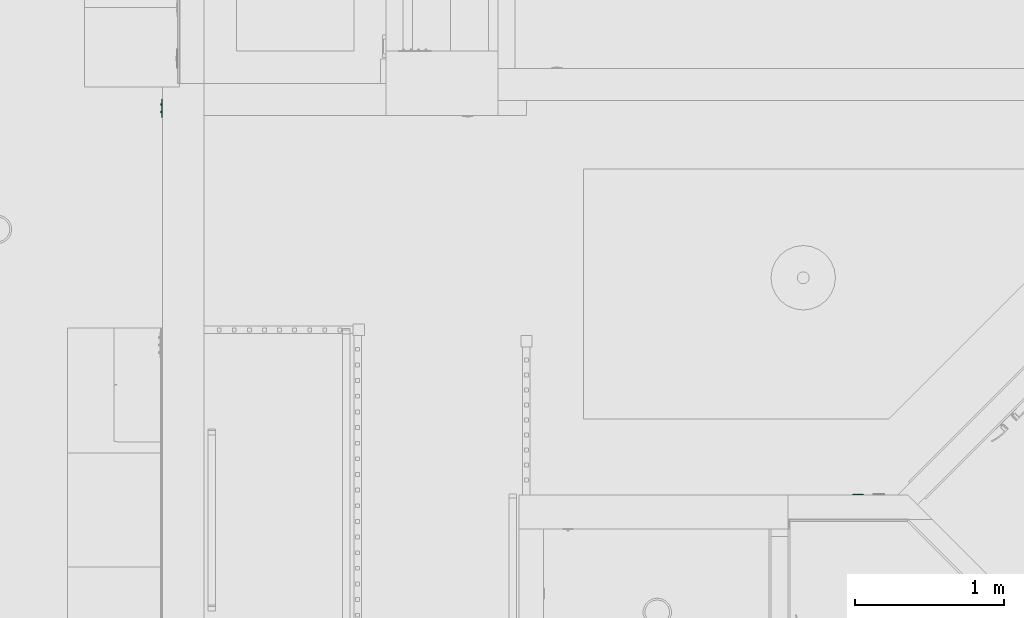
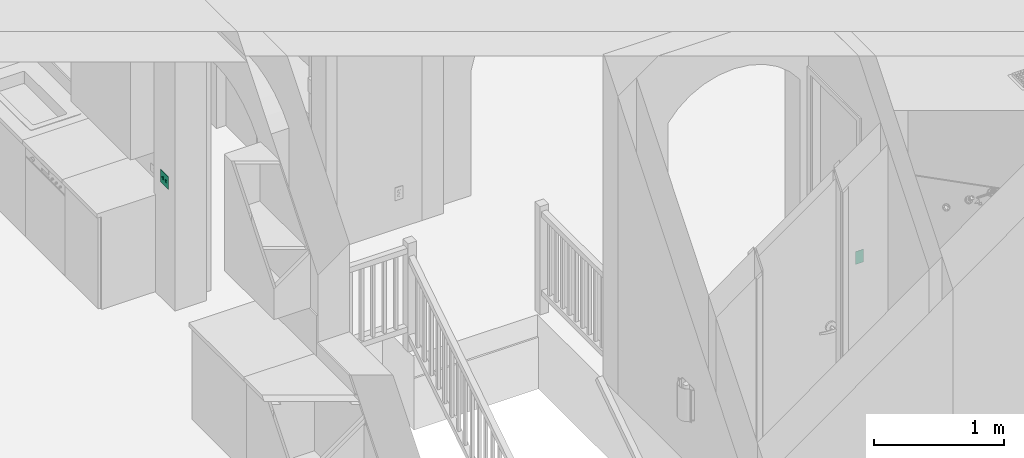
# One storey, part 14 of 103: 2 flow controllers.
"""IFC2X3 building model written with IfcOpenShell, lengths in inches."""

from ifc_helpers import new_model, entity, si_unit, converted_unit, derived_unit, money_unit, direction, frame, origin_with_axes, place, context, subcontext, project, spatial, faceted_brep, source, transform, mapped, type_object, element, save


model = new_model("IFC2X3")

# Units and contexts
model_context = context("Model", 3, precision=0.00039370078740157, world=origin_with_axes(), true_north=direction((0.0, 1.0)))
plan_context = context("Plan", 3, precision=0.00039370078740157, world=origin_with_axes(), true_north=direction((0.0, 1.0)))
body_context = subcontext(model_context, "Body", "Model", "MODEL_VIEW")
ifc_project = project(units=[converted_unit("LENGTHUNIT", "INCH", entity("IfcPositiveLengthMeasure", 0.0254), si_unit("LENGTHUNIT", "METRE"), dimensions=[1, 0, 0, 0, 0, 0, 0]), converted_unit("AREAUNIT", "SQUARE_FOOT", entity("IfcPositiveLengthMeasure", 0.09290304), si_unit("AREAUNIT", "SQUARE_METRE"), dimensions=[2, 0, 0, 0, 0, 0, 0]), si_unit("PLANEANGLEUNIT", "RADIAN"), si_unit("SOLIDANGLEUNIT", "STERADIAN"), money_unit("USD"), converted_unit("TIMEUNIT", "Year", entity("IfcTimeMeasure", 31557600.0), si_unit("TIMEUNIT", "SECOND"), dimensions=[0, 0, 1, 0, 0, 0, 0]), si_unit("MASSUNIT", "GRAM", prefix="KILO"), si_unit("THERMODYNAMICTEMPERATUREUNIT", "DEGREE_CELSIUS"), si_unit("LUMINOUSINTENSITYUNIT", "LUMEN"), si_unit("ENERGYUNIT", "JOULE", prefix="MEGA"), derived_unit("SPECIFICHEATCAPACITYUNIT", [(si_unit("ENERGYUNIT", "JOULE"), 1), (si_unit("MASSUNIT", "GRAM", prefix="KILO"), -1), (si_unit("THERMODYNAMICTEMPERATUREUNIT", "KELVIN"), -1)])], contexts=[model_context, plan_context])

# Site, building, storey
site_placement = place(None, origin_with_axes())
site = spatial("IfcSite", under=ifc_project, at=site_placement, Name="Site", CompositionType="ELEMENT")
building_placement = place(site_placement, origin_with_axes())
building = spatial("IfcBuilding", under=site, at=building_placement, Name="Building", CompositionType="ELEMENT")
storey_placement = place(building_placement, frame((0.0, 0.0, 127.9999999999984), z_axis=(0.0, 0.0, 1.0), x_axis=(1.0, 0.0, 0.0)))
storey = spatial("IfcBuildingStorey", under=building, at=storey_placement, Name="Second Floor", CompositionType="ELEMENT", Elevation=128.0)

# Flow controllers
switching_device_type_1 = type_object("IfcSwitchingDeviceType", Name="Outlet 1 US", PredefinedType="NOTDEFINED")
shared_shape_1 = source(origin_with_axes(), body_context, "Body", "Brep", [
    faceted_brep([(0.39370078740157, -0.03444881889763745, -1.18110236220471), (0.5436477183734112, -0.03444881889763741, -0.7086614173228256), (0.5436477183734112, -0.2165354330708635, -0.7086614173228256), (0.39370078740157, -0.2165354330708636, -1.18110236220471), (-0.3937007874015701, -0.03444881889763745, -1.181102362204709), (-0.543647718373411, -0.03444881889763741, -0.7086614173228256), (-0.39370078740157, -0.03444881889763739, -0.2362204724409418), (0.3937007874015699, -0.03444881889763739, -0.2362204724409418), (-0.196850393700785, -0.03444881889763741, -0.7086614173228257), (-0.196850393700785, -0.0344488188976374, -0.4724409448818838), (-0.275590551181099, -0.0344488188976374, -0.4724409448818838), (-0.275590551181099, -0.03444881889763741, -0.7086614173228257), (0.196850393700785, -0.03444881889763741, -0.7086614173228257), (0.275590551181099, -0.03444881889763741, -0.7086614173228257), (0.275590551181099, -0.0344488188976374, -0.4724409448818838), (0.196850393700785, -0.0344488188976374, -0.4724409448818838), (-0.078740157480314, -0.03444881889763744, -1.102362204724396), (0.078740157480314, -0.03444881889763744, -1.102362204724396), (0.078740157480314, -0.03444881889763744, -1.023622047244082), (0.06819097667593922, -0.03444881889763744, -0.9842519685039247), (0.03937007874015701, -0.03444881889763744, -0.9554310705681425), (0.0, -0.03444881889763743, -0.9448818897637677), (-0.03937007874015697, -0.03444881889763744, -0.9554310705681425), (-0.06819097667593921, -0.03444881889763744, -0.9842519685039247), (-0.078740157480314, -0.03444881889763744, -1.023622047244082), (0.3937007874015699, -0.2165354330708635, -0.2362204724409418), (-0.39370078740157, -0.2165354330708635, -0.2362204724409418), (-0.543647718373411, -0.2165354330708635, -0.7086614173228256), (-0.3937007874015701, -0.2165354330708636, -1.181102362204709), (-0.196850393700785, -0.2165354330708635, -0.7086614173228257), (-0.275590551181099, -0.2165354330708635, -0.7086614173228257), (-0.275590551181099, -0.2165354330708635, -0.4724409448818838), (-0.196850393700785, -0.2165354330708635, -0.4724409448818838), (0.196850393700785, -0.2165354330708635, -0.7086614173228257), (0.196850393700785, -0.2165354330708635, -0.4724409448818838), (0.275590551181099, -0.2165354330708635, -0.4724409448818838), (0.275590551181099, -0.2165354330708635, -0.7086614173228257), (-0.078740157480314, -0.2165354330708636, -1.102362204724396), (-0.078740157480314, -0.2165354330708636, -1.023622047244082), (-0.06819097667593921, -0.2165354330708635, -0.9842519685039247), (-0.03937007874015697, -0.2165354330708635, -0.9554310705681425), (0.0, -0.2165354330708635, -0.9448818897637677), (0.03937007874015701, -0.2165354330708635, -0.9554310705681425), (0.06819097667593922, -0.2165354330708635, -0.9842519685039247), (0.078740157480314, -0.2165354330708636, -1.023622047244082), (0.078740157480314, -0.2165354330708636, -1.102362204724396)], [[[0, 1, 2, 3]], [[0, 4, 5, 6, 7, 1], [8, 9, 10, 11], [12, 13, 14, 15], [16, 17, 18, 19, 20, 21, 22, 23, 24]], [[1, 7, 25, 2]], [[3, 2, 25, 26, 27, 28], [29, 30, 31, 32], [33, 34, 35, 36], [37, 38, 39, 40, 41, 42, 43, 44, 45]], [[4, 0, 3, 28]], [[5, 4, 28, 27]], [[6, 5, 27, 26]], [[7, 6, 26, 25]], [[9, 8, 29, 32]], [[10, 9, 32, 31]], [[11, 10, 31, 30]], [[8, 11, 30, 29]], [[13, 12, 33, 36]], [[14, 13, 36, 35]], [[15, 14, 35, 34]], [[12, 15, 34, 33]], [[17, 16, 37, 45]], [[18, 17, 45, 44]], [[19, 18, 44, 43]], [[20, 19, 43, 42]], [[21, 20, 42, 41]], [[22, 21, 41, 40]], [[23, 22, 40, 39]], [[24, 23, 39, 38]], [[16, 24, 38, 37]]]),
    faceted_brep([(0.39370078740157, -0.03444881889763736, 0.2362204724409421), (0.5436477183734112, -0.03444881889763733, 0.7086614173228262), (0.5436477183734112, -0.2165354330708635, 0.7086614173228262), (0.39370078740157, -0.2165354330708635, 0.2362204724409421), (-0.3937007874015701, -0.03444881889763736, 0.2362204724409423), (-0.543647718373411, -0.03444881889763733, 0.7086614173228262), (-0.39370078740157, -0.0344488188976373, 1.18110236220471), (0.3937007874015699, -0.0344488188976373, 1.18110236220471), (-0.196850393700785, -0.03444881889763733, 0.7086614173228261), (-0.196850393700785, -0.03444881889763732, 0.944881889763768), (-0.275590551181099, -0.03444881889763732, 0.944881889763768), (-0.275590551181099, -0.03444881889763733, 0.7086614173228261), (0.196850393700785, -0.03444881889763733, 0.7086614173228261), (0.275590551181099, -0.03444881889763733, 0.7086614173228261), (0.275590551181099, -0.03444881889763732, 0.944881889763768), (0.196850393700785, -0.03444881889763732, 0.944881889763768), (-0.078740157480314, -0.03444881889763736, 0.3149606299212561), (0.078740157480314, -0.03444881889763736, 0.3149606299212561), (0.078740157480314, -0.03444881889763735, 0.3937007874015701), (0.06819097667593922, -0.03444881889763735, 0.4330708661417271), (0.03937007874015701, -0.03444881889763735, 0.4618917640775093), (0.0, -0.03444881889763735, 0.472440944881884), (-0.03937007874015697, -0.03444881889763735, 0.4618917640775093), (-0.06819097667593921, -0.03444881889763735, 0.4330708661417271), (-0.078740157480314, -0.03444881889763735, 0.3937007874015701), (0.3937007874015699, -0.2165354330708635, 1.18110236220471), (-0.39370078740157, -0.2165354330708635, 1.18110236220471), (-0.543647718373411, -0.2165354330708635, 0.7086614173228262), (-0.3937007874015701, -0.2165354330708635, 0.2362204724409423), (-0.196850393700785, -0.2165354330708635, 0.7086614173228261), (-0.275590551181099, -0.2165354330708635, 0.7086614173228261), (-0.275590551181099, -0.2165354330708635, 0.944881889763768), (-0.196850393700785, -0.2165354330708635, 0.944881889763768), (0.196850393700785, -0.2165354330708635, 0.7086614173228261), (0.196850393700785, -0.2165354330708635, 0.944881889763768), (0.275590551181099, -0.2165354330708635, 0.944881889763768), (0.275590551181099, -0.2165354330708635, 0.7086614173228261), (-0.078740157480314, -0.2165354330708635, 0.3149606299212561), (-0.078740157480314, -0.2165354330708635, 0.3937007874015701), (-0.06819097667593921, -0.2165354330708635, 0.4330708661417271), (-0.03937007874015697, -0.2165354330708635, 0.4618917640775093), (0.0, -0.2165354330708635, 0.472440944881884), (0.03937007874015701, -0.2165354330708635, 0.4618917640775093), (0.06819097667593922, -0.2165354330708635, 0.4330708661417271), (0.078740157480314, -0.2165354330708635, 0.3937007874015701), (0.078740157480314, -0.2165354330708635, 0.3149606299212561)], [[[0, 1, 2, 3]], [[0, 4, 5, 6, 7, 1], [8, 9, 10, 11], [12, 13, 14, 15], [16, 17, 18, 19, 20, 21, 22, 23, 24]], [[1, 7, 25, 2]], [[3, 2, 25, 26, 27, 28], [29, 30, 31, 32], [33, 34, 35, 36], [37, 38, 39, 40, 41, 42, 43, 44, 45]], [[4, 0, 3, 28]], [[5, 4, 28, 27]], [[6, 5, 27, 26]], [[7, 6, 26, 25]], [[9, 8, 29, 32]], [[10, 9, 32, 31]], [[11, 10, 31, 30]], [[8, 11, 30, 29]], [[13, 12, 33, 36]], [[14, 13, 36, 35]], [[15, 14, 35, 34]], [[12, 15, 34, 33]], [[17, 16, 37, 45]], [[18, 17, 45, 44]], [[19, 18, 44, 43]], [[20, 19, 43, 42]], [[21, 20, 42, 41]], [[22, 21, 41, 40]], [[23, 22, 40, 39]], [[24, 23, 39, 38]], [[16, 24, 38, 37]]]),
    faceted_brep([(-1.343503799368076, -0.1377952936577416, -2.327755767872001), (1.343503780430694, -0.1377952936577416, -2.327755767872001), (1.343503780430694, -0.1377952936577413, 2.327755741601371), (-1.343503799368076, -0.1377952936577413, 2.327755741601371), (0.39370078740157, -0.1377952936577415, -1.18110236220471), (-0.3937007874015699, -0.1377952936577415, -1.181102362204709), (-0.5436477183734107, -0.1377952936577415, -0.7086614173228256), (-0.39370078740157, -0.1377952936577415, -0.2362204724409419), (0.3937007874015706, -0.1377952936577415, -0.2362204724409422), (0.5436477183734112, -0.1377952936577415, -0.7086614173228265), (-0.39370078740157, -0.1377952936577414, 1.18110236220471), (0.3937007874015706, -0.1377952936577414, 1.18110236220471), (0.5436477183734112, -0.1377952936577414, 0.7086614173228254), (0.39370078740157, -0.1377952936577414, 0.236220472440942), (-0.3937007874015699, -0.1377952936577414, 0.2362204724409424), (-0.5436477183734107, -0.1377952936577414, 0.7086614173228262), (-1.352419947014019, -0.1366214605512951, -2.336671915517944), (1.352419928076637, -0.1366214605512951, -2.336671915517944), (1.352419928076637, -0.1366214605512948, 2.336671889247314), (-1.352419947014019, -0.1366214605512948, 2.336671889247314), (0.39370078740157, -0.03444881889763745, -1.18110236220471), (-0.3937007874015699, -0.03444881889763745, -1.181102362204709), (-0.5436477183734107, -0.03444881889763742, -0.7086614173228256), (-0.39370078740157, -0.03444881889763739, -0.2362204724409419), (0.3937007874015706, -0.03444881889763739, -0.2362204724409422), (0.5436477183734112, -0.03444881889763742, -0.7086614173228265), (-0.39370078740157, -0.0344488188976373, 1.18110236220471), (0.3937007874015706, -0.0344488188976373, 1.18110236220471), (0.5436477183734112, -0.03444881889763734, 0.7086614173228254), (0.39370078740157, -0.03444881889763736, 0.236220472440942), (-0.3937007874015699, -0.03444881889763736, 0.2362204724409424), (-0.5436477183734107, -0.03444881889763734, 0.7086614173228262), (-1.36786294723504, -0.1277054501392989, -2.352114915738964), (1.367862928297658, -0.1277054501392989, -2.352114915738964), (1.367862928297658, -0.1277054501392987, 2.352114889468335), (-1.36786294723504, -0.1277054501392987, 2.352114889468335), (-1.376778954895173, -0.1122624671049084, -2.361030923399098), (1.376778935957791, -0.1122624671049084, -2.361030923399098), (1.376778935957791, -0.1122624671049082, 2.361030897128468), (-1.376778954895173, -0.1122624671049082, 2.361030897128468), (-1.377952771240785, -0.1033464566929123, -2.362204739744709), (1.377952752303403, -0.1033464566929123, -2.362204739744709), (1.377952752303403, -0.103346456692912, 2.36220471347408), (-1.377952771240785, -0.103346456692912, 2.36220471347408), (-1.377952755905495, 0.0, -2.36220472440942), (1.377952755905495, 0.0, -2.36220472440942), (1.377952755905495, 0.0, 2.36220472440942), (-1.377952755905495, 0.0, 2.36220472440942)], [[[0, 1, 2, 3], [4, 5, 6, 7, 8, 9], [10, 11, 12, 13, 14, 15]], [[1, 0, 16, 17]], [[2, 1, 17, 18]], [[3, 2, 18, 19]], [[0, 3, 19, 16]], [[4, 20, 21, 5]], [[5, 21, 22, 6]], [[6, 22, 23, 7]], [[7, 23, 24, 8]], [[8, 24, 25, 9]], [[9, 25, 20, 4]], [[11, 10, 26, 27]], [[12, 11, 27, 28]], [[13, 12, 28, 29]], [[14, 13, 29, 30]], [[15, 14, 30, 31]], [[10, 15, 31, 26]], [[17, 16, 32, 33]], [[18, 17, 33, 34]], [[19, 18, 34, 35]], [[16, 19, 35, 32]], [[22, 21, 20, 25, 24, 23]], [[28, 27, 26, 31, 30, 29]], [[33, 32, 36, 37]], [[34, 33, 37, 38]], [[35, 34, 38, 39]], [[32, 35, 39, 36]], [[37, 36, 40, 41]], [[38, 37, 41, 42]], [[39, 38, 42, 43]], [[36, 39, 43, 40]], [[41, 40, 44, 45]], [[42, 41, 45, 46]], [[43, 42, 46, 47]], [[40, 43, 47, 44]], [[46, 45, 44, 47]]]),
])
flow_controller_1_placement = place(storey_placement, frame((333.9998441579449, 88.49999999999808, 13.99999999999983), z_axis=(0.0, 0.0, 1.0), x_axis=(-1.0, 0.0, 0.0)))
element("IfcFlowController", 1, at=flow_controller_1_placement, inside=storey, type_object=switching_device_type_1, Name="FU - 029", context=body_context, shape_type="MappedRepresentation", body=[
    mapped(shared_shape_1, transform((0.0, 0.0, 0.0))),
])
switching_device_type_2 = type_object("IfcSwitchingDeviceType", Name="Switch US", PredefinedType="NOTDEFINED")
shared_shape_2 = source(origin_with_axes(), body_context, "Body", "Brep", [
    faceted_brep([(1.18110236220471, 0.0, -0.5905511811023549), (0.7874015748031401, 0.0, -0.5905511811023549), (0.7874015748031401, 0.0, 0.5905511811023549), (1.18110236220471, 0.0, 0.5905511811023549), (1.18110236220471, -0.1033464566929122, -0.5905511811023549), (0.7874015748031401, -0.1033464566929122, -0.5905511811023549), (0.7874015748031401, -0.1033464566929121, 0.157480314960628), (0.7874015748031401, -0.4970472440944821, 0.1574803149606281), (0.7874015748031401, -0.4970472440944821, 0.472440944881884), (0.7874015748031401, -0.1033464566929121, 0.472440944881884), (0.7874015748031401, -0.1033464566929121, 0.5905511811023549), (1.18110236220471, -0.103346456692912, 0.5905511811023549), (1.18110236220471, -0.1033464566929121, 0.472440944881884), (1.18110236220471, -0.4970472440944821, 0.472440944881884), (1.18110236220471, -0.4970472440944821, 0.1574803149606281), (1.18110236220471, -0.1033464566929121, 0.157480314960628)], [[[0, 1, 2, 3]], [[4, 5, 1, 0]], [[1, 5, 6, 7, 8, 9, 10, 2]], [[3, 2, 10, 11]], [[0, 3, 11, 12, 13, 14, 15, 4]], [[15, 6, 5, 4]], [[14, 7, 6, 15]], [[13, 8, 7, 14]], [[12, 9, 8, 13]], [[11, 10, 9, 12]]]),
    faceted_brep([(1.259842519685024, 0.0, -0.669291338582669), (1.259842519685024, -0.1771653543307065, -0.669291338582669), (0.7086614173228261, -0.1771653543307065, -0.669291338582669), (0.7086614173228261, 0.0, -0.669291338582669), (1.259842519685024, 0.0, 0.669291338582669), (1.259842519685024, -0.1771653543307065, 0.669291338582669), (0.7086614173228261, -0.1771653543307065, 0.669291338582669), (1.18110236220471, -0.1771653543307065, -0.5905511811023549), (0.78740157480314, -0.1771653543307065, -0.5905511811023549), (0.78740157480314, -0.1771653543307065, 0.5905511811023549), (1.18110236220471, -0.1771653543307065, 0.5905511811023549), (0.7086614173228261, 0.0, 0.669291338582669), (1.18110236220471, 0.0, -0.5905511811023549), (1.18110236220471, 0.0, 0.5905511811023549), (0.78740157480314, 0.0, 0.5905511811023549), (0.78740157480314, 0.0, -0.5905511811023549)], [[[0, 1, 2, 3]], [[4, 5, 1, 0]], [[1, 5, 6, 2], [7, 8, 9, 10]], [[3, 2, 6, 11]], [[0, 3, 11, 4], [12, 13, 14, 15]], [[11, 6, 5, 4]], [[15, 8, 7, 12]], [[14, 9, 8, 15]], [[13, 10, 9, 14]], [[12, 7, 10, 13]]]),
    faceted_brep([(0.0, -0.103346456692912, 2.362204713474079), (2.362204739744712, -0.103346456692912, 2.362204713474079), (2.36220472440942, 0.0, 2.36220472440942), (0.0, 0.0, 2.36220472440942), (0.0, -0.1122624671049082, 2.361030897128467), (2.361030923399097, -0.1122624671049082, 2.361030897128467), (2.362204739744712, -0.1033464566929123, -2.36220473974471), (2.36220472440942, 0.0, -2.36220472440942), (0.0, 0.0, -2.36220472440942), (0.7086614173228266, 0.0, -0.669291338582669), (1.259842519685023, 0.0, -0.669291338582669), (1.259842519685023, 0.0, 0.669291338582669), (0.7086614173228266, 0.0, 0.669291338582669), (0.0, -0.1033464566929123, -2.36220473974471), (0.0, -0.1122624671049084, -2.361030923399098), (0.0, -0.1277054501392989, -2.352114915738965), (0.0, -0.1366214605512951, -2.336671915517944), (0.0, -0.1377952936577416, -2.327755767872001), (0.0, -0.1377952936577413, 2.32775574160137), (0.0, -0.1366214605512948, 2.336671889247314), (0.0, -0.1277054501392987, 2.352114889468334), (2.352114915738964, -0.1277054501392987, 2.352114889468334), (2.361030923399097, -0.1122624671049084, -2.361030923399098), (0.7086614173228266, -0.1377952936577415, -0.669291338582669), (1.259842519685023, -0.1377952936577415, -0.669291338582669), (1.259842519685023, -0.1377952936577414, 0.669291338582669), (0.7086614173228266, -0.1377952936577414, 0.669291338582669), (2.352114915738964, -0.1277054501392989, -2.352114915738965), (2.336671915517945, -0.1366214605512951, -2.336671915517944), (2.327755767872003, -0.1377952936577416, -2.327755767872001), (2.327755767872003, -0.1377952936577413, 2.32775574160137), (2.336671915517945, -0.1366214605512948, 2.336671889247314)], [[[0, 1, 2, 3]], [[4, 5, 1, 0]], [[6, 7, 2, 1]], [[3, 2, 7, 8], [9, 10, 11, 12]], [[8, 13, 14, 15, 16, 17, 18, 19, 20, 4, 0, 3]], [[20, 21, 5, 4]], [[22, 6, 1, 5]], [[8, 7, 6, 13]], [[10, 9, 23, 24]], [[11, 10, 24, 25]], [[12, 11, 25, 26]], [[9, 12, 26, 23]], [[13, 6, 22, 14]], [[14, 22, 27, 15]], [[15, 27, 28, 16]], [[16, 28, 29, 17]], [[17, 29, 30, 18], [25, 24, 23, 26]], [[18, 30, 31, 19]], [[19, 31, 21, 20]], [[27, 22, 5, 21]], [[28, 27, 21, 31]], [[29, 28, 31, 30]]]),
    faceted_brep([(-0.78740157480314, 0.0, -0.5905511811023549), (-1.18110236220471, 0.0, -0.5905511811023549), (-1.18110236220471, 0.0, 0.5905511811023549), (-0.78740157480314, 0.0, 0.5905511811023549), (-0.78740157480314, -0.1033464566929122, -0.5905511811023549), (-1.18110236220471, -0.1033464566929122, -0.5905511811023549), (-1.18110236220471, -0.1033464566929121, 0.157480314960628), (-1.18110236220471, -0.4970472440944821, 0.1574803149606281), (-1.18110236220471, -0.4970472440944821, 0.472440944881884), (-1.18110236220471, -0.1033464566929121, 0.472440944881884), (-1.18110236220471, -0.1033464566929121, 0.5905511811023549), (-0.78740157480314, -0.103346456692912, 0.5905511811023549), (-0.78740157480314, -0.1033464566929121, 0.472440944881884), (-0.78740157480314, -0.4970472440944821, 0.472440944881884), (-0.78740157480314, -0.4970472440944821, 0.1574803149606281), (-0.78740157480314, -0.1033464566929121, 0.157480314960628)], [[[0, 1, 2, 3]], [[4, 5, 1, 0]], [[1, 5, 6, 7, 8, 9, 10, 2]], [[3, 2, 10, 11]], [[0, 3, 11, 12, 13, 14, 15, 4]], [[15, 6, 5, 4]], [[14, 7, 6, 15]], [[13, 8, 7, 14]], [[12, 9, 8, 13]], [[11, 10, 9, 12]]]),
    faceted_brep([(-0.7086614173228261, 0.0, -0.669291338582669), (-0.7086614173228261, -0.1771653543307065, -0.669291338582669), (-1.259842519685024, -0.1771653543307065, -0.669291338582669), (-1.259842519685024, 0.0, -0.669291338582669), (-0.7086614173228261, 0.0, 0.669291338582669), (-0.7086614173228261, -0.1771653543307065, 0.669291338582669), (-1.259842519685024, -0.1771653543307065, 0.669291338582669), (-0.78740157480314, -0.1771653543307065, -0.5905511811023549), (-1.18110236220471, -0.1771653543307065, -0.5905511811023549), (-1.18110236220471, -0.1771653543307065, 0.5905511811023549), (-0.78740157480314, -0.1771653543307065, 0.5905511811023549), (-1.259842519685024, 0.0, 0.669291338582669), (-0.78740157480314, 0.0, -0.5905511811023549), (-0.78740157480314, 0.0, 0.5905511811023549), (-1.18110236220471, 0.0, 0.5905511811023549), (-1.18110236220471, 0.0, -0.5905511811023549)], [[[0, 1, 2, 3]], [[4, 5, 1, 0]], [[1, 5, 6, 2], [7, 8, 9, 10]], [[3, 2, 6, 11]], [[0, 3, 11, 4], [12, 13, 14, 15]], [[11, 6, 5, 4]], [[15, 8, 7, 12]], [[14, 9, 8, 15]], [[13, 10, 9, 14]], [[12, 7, 10, 13]]]),
    faceted_brep([(0.0, 0.0, -2.36220472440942), (-2.362204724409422, 0.0, -2.36220472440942), (-2.362204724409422, 0.0, 2.36220472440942), (0.0, 0.0, 2.36220472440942), (-1.259842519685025, 0.0, -0.669291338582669), (-0.7086614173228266, 0.0, -0.669291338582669), (-0.7086614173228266, 0.0, 0.669291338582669), (-1.259842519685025, 0.0, 0.669291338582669), (0.0, -0.1033464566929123, -2.36220473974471), (-2.362204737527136, -0.1033464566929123, -2.36220473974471), (-2.362204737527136, -0.103346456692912, 2.362204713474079), (0.0, -0.103346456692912, 2.362204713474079), (0.0, -0.1122624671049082, 2.361030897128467), (0.0, -0.1277054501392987, 2.352114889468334), (0.0, -0.1366214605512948, 2.336671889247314), (0.0, -0.1377952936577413, 2.32775574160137), (0.0, -0.1377952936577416, -2.327755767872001), (0.0, -0.1366214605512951, -2.336671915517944), (0.0, -0.1277054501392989, -2.352114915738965), (0.0, -0.1122624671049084, -2.361030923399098), (-1.259842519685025, -0.1377952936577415, -0.669291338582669), (-0.7086614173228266, -0.1377952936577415, -0.669291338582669), (-0.7086614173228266, -0.1377952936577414, 0.669291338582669), (-1.259842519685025, -0.1377952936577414, 0.669291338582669), (-2.361030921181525, -0.1122624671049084, -2.361030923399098), (-2.361030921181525, -0.1122624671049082, 2.361030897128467), (-2.352114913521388, -0.1277054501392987, 2.352114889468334), (-2.336671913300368, -0.1366214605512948, 2.336671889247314), (-2.327755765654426, -0.1377952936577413, 2.32775574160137), (-2.327755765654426, -0.1377952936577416, -2.327755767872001), (-2.336671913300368, -0.1366214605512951, -2.336671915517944), (-2.352114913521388, -0.1277054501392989, -2.352114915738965)], [[[0, 1, 2, 3], [4, 5, 6, 7]], [[8, 9, 1, 0]], [[10, 2, 1, 9]], [[3, 2, 10, 11]], [[11, 12, 13, 14, 15, 16, 17, 18, 19, 8, 0, 3]], [[5, 4, 20, 21]], [[6, 5, 21, 22]], [[7, 6, 22, 23]], [[4, 7, 23, 20]], [[19, 24, 9, 8]], [[25, 10, 9, 24]], [[11, 10, 25, 12]], [[12, 25, 26, 13]], [[13, 26, 27, 14]], [[14, 27, 28, 15]], [[15, 28, 29, 16], [22, 21, 20, 23]], [[16, 29, 30, 17]], [[17, 30, 31, 18]], [[18, 31, 24, 19]], [[26, 25, 24, 31]], [[27, 26, 31, 30]], [[28, 27, 30, 29]]]),
])
flow_controller_2_placement = place(storey_placement, frame((150.4998869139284, 190.5006997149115, 44.99999999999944), z_axis=(0.0, 0.0, 1.0), x_axis=(1.346018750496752e-06, -0.9999999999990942, 0.0)))
element("IfcFlowController", 2, at=flow_controller_2_placement, inside=storey, type_object=switching_device_type_2, Name="OBJ-09", context=body_context, shape_type="MappedRepresentation", body=[
    mapped(shared_shape_2, transform((0.0, 0.0, 0.0))),
])

save(model, "model.ifc")
